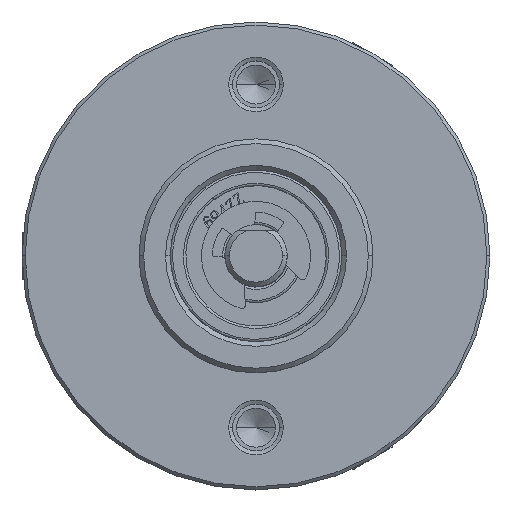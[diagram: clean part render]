
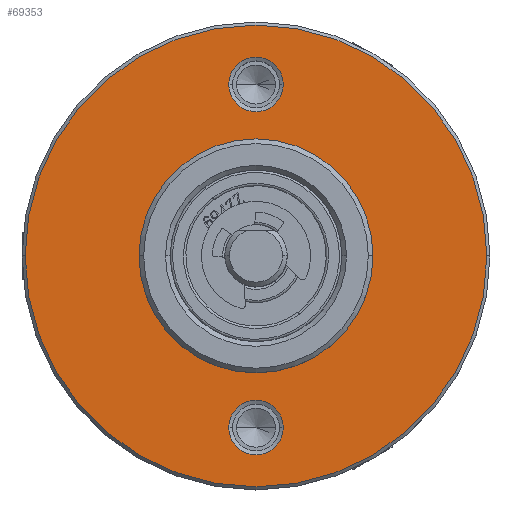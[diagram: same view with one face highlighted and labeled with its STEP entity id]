
A CAD part, top view. The second image highlights one B-rep face of the part: STEP entity #69353.
In plain terms, the highlighted planar face has unit normal (0, 0, 1).
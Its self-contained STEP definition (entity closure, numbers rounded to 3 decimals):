
#401 = AXIS2_PLACEMENT_3D ( 'NONE', #15970, #58114, #22027 ) ;
#1847 = VERTEX_POINT ( 'NONE', #18073 ) ;
#2293 = DIRECTION ( 'NONE',  ( 0., 0., 1. ) ) ;
#2372 = DIRECTION ( 'NONE',  ( 1., 0., 0. ) ) ;
#3815 = DIRECTION ( 'NONE',  ( 0., 0., 1. ) ) ;
#5246 = CARTESIAN_POINT ( 'NONE',  ( 7.5, 0., -3. ) ) ;
#5760 = EDGE_LOOP ( 'NONE', ( #14902, #49899 ) ) ;
#6899 = VERTEX_POINT ( 'NONE', #5246 ) ;
#7460 = FACE_BOUND ( 'NONE', #24507, .T. ) ;
#7583 = CIRCLE ( 'NONE', #34577, 1.75 ) ;
#11525 = CARTESIAN_POINT ( 'NONE',  ( 0., 11., -3. ) ) ;
#14902 = ORIENTED_EDGE ( 'NONE', *, *, #68439, .T. ) ;
#15970 = CARTESIAN_POINT ( 'NONE',  ( 0., 0., -3. ) ) ;
#16324 = ORIENTED_EDGE ( 'NONE', *, *, #57122, .F. ) ;
#16762 = CIRCLE ( 'NONE', #60539, 1.75 ) ;
#17285 = EDGE_CURVE ( 'NONE', #50593, #6899, #52015, .T. ) ;
#17572 = DIRECTION ( 'NONE',  ( 1., 0., 0. ) ) ;
#18073 = CARTESIAN_POINT ( 'NONE',  ( 1.75, -11., -3. ) ) ;
#18107 = EDGE_CURVE ( 'NONE', #29959, #21307, #49061, .T. ) ;
#21265 = DIRECTION ( 'NONE',  ( 0., 0., 1. ) ) ;
#21307 = VERTEX_POINT ( 'NONE', #77824 ) ;
#22027 = DIRECTION ( 'NONE',  ( 1., 0., 0. ) ) ;
#23555 = FACE_OUTER_BOUND ( 'NONE', #5760, .T. ) ;
#24507 = EDGE_LOOP ( 'NONE', ( #16324, #35521 ) ) ;
#25927 = CIRCLE ( 'NONE', #401, 14.8 ) ;
#29356 = CARTESIAN_POINT ( 'NONE',  ( 0., 11., -3. ) ) ;
#29959 = VERTEX_POINT ( 'NONE', #66156 ) ;
#31240 = PLANE ( 'NONE',  #43999 ) ;
#32105 = ORIENTED_EDGE ( 'NONE', *, *, #32596, .F. ) ;
#32271 = DIRECTION ( 'NONE',  ( 0., 0., 1. ) ) ;
#32596 = EDGE_CURVE ( 'NONE', #21307, #29959, #70599, .T. ) ;
#34577 = AXIS2_PLACEMENT_3D ( 'NONE', #57390, #21265, #63445 ) ;
#35383 = EDGE_CURVE ( 'NONE', #6899, #50593, #41010, .T. ) ;
#35385 = DIRECTION ( 'NONE',  ( 1., 0., 0. ) ) ;
#35433 = AXIS2_PLACEMENT_3D ( 'NONE', #29356, #71534, #35385 ) ;
#35521 = ORIENTED_EDGE ( 'NONE', *, *, #48923, .F. ) ;
#37561 = DIRECTION ( 'NONE',  ( 1., 0., 0. ) ) ;
#38436 = CARTESIAN_POINT ( 'NONE',  ( 0., 0., -3. ) ) ;
#38518 = DIRECTION ( 'NONE',  ( 0., 0., 1. ) ) ;
#39963 = CARTESIAN_POINT ( 'NONE',  ( 0., 0., -3. ) ) ;
#41010 = CIRCLE ( 'NONE', #54094, 7.5 ) ;
#43999 = AXIS2_PLACEMENT_3D ( 'NONE', #55479, #73705, #37561 ) ;
#44472 = AXIS2_PLACEMENT_3D ( 'NONE', #74679, #38518, #2372 ) ;
#44499 = DIRECTION ( 'NONE',  ( 1., 0., 0. ) ) ;
#46020 = DIRECTION ( 'NONE',  ( 1., 0., 0. ) ) ;
#47737 = AXIS2_PLACEMENT_3D ( 'NONE', #38436, #2293, #44499 ) ;
#48779 = VERTEX_POINT ( 'NONE', #55821 ) ;
#48923 = EDGE_CURVE ( 'NONE', #76241, #1847, #7583, .T. ) ;
#49061 = CIRCLE ( 'NONE', #35433, 1.75 ) ;
#49899 = ORIENTED_EDGE ( 'NONE', *, *, #78199, .T. ) ;
#50593 = VERTEX_POINT ( 'NONE', #51644 ) ;
#51644 = CARTESIAN_POINT ( 'NONE',  ( -7.5, 0., -3. ) ) ;
#52015 = CIRCLE ( 'NONE', #47737, 7.5 ) ;
#52493 = CARTESIAN_POINT ( 'NONE',  ( 14.8, 0., -3. ) ) ;
#53352 = EDGE_LOOP ( 'NONE', ( #76993, #54728 ) ) ;
#53716 = DIRECTION ( 'NONE',  ( 0., 0., 1. ) ) ;
#54094 = AXIS2_PLACEMENT_3D ( 'NONE', #39963, #3815, #46020 ) ;
#54728 = ORIENTED_EDGE ( 'NONE', *, *, #17285, .F. ) ;
#55479 = CARTESIAN_POINT ( 'NONE',  ( 7.5, 0., -3. ) ) ;
#55587 = FACE_BOUND ( 'NONE', #53352, .T. ) ;
#55821 = CARTESIAN_POINT ( 'NONE',  ( -14.8, 0., -3. ) ) ;
#56328 = VERTEX_POINT ( 'NONE', #52493 ) ;
#57122 = EDGE_CURVE ( 'NONE', #1847, #76241, #16762, .T. ) ;
#57390 = CARTESIAN_POINT ( 'NONE',  ( 0., -11., -3. ) ) ;
#58114 = DIRECTION ( 'NONE',  ( 0., 0., 1. ) ) ;
#58538 = CIRCLE ( 'NONE', #44472, 14.8 ) ;
#60539 = AXIS2_PLACEMENT_3D ( 'NONE', #68414, #32271, #74512 ) ;
#63445 = DIRECTION ( 'NONE',  ( 1., 0., 0. ) ) ;
#64536 = ORIENTED_EDGE ( 'NONE', *, *, #18107, .F. ) ;
#66156 = CARTESIAN_POINT ( 'NONE',  ( -1.75, 11., -3. ) ) ;
#68414 = CARTESIAN_POINT ( 'NONE',  ( 0., -11., -3. ) ) ;
#68439 = EDGE_CURVE ( 'NONE', #48779, #56328, #58538, .T. ) ;
#69353 = ADVANCED_FACE ( 'NONE', ( #71652, #7460, #23555, #55587 ), #31240, .T. ) ;
#70599 = CIRCLE ( 'NONE', #73590, 1.75 ) ;
#71355 = CARTESIAN_POINT ( 'NONE',  ( -1.75, -11., -3. ) ) ;
#71534 = DIRECTION ( 'NONE',  ( 0., 0., 1. ) ) ;
#71652 = FACE_BOUND ( 'NONE', #71693, .T. ) ;
#71693 = EDGE_LOOP ( 'NONE', ( #32105, #64536 ) ) ;
#73590 = AXIS2_PLACEMENT_3D ( 'NONE', #11525, #53716, #17572 ) ;
#73705 = DIRECTION ( 'NONE',  ( 0., 0., 1. ) ) ;
#74512 = DIRECTION ( 'NONE',  ( 1., 0., 0. ) ) ;
#74679 = CARTESIAN_POINT ( 'NONE',  ( 0., 0., -3. ) ) ;
#76241 = VERTEX_POINT ( 'NONE', #71355 ) ;
#76993 = ORIENTED_EDGE ( 'NONE', *, *, #35383, .F. ) ;
#77824 = CARTESIAN_POINT ( 'NONE',  ( 1.75, 11., -3. ) ) ;
#78199 = EDGE_CURVE ( 'NONE', #56328, #48779, #25927, .T. ) ;
